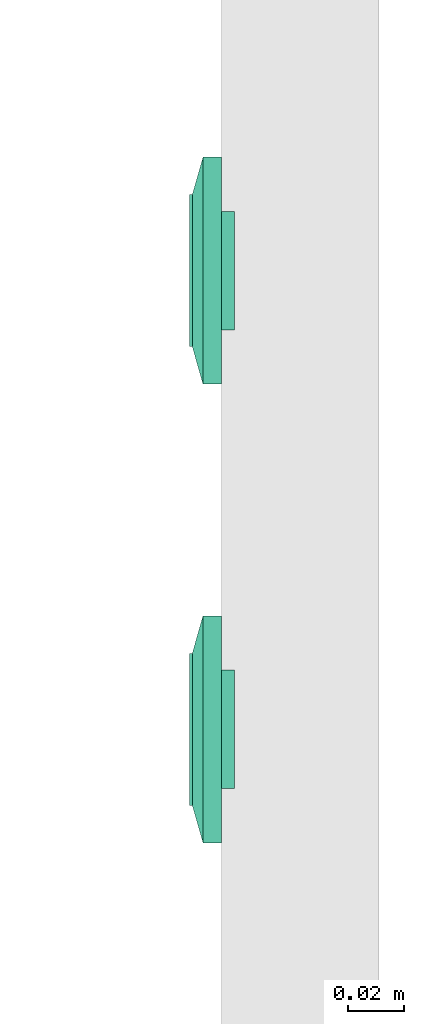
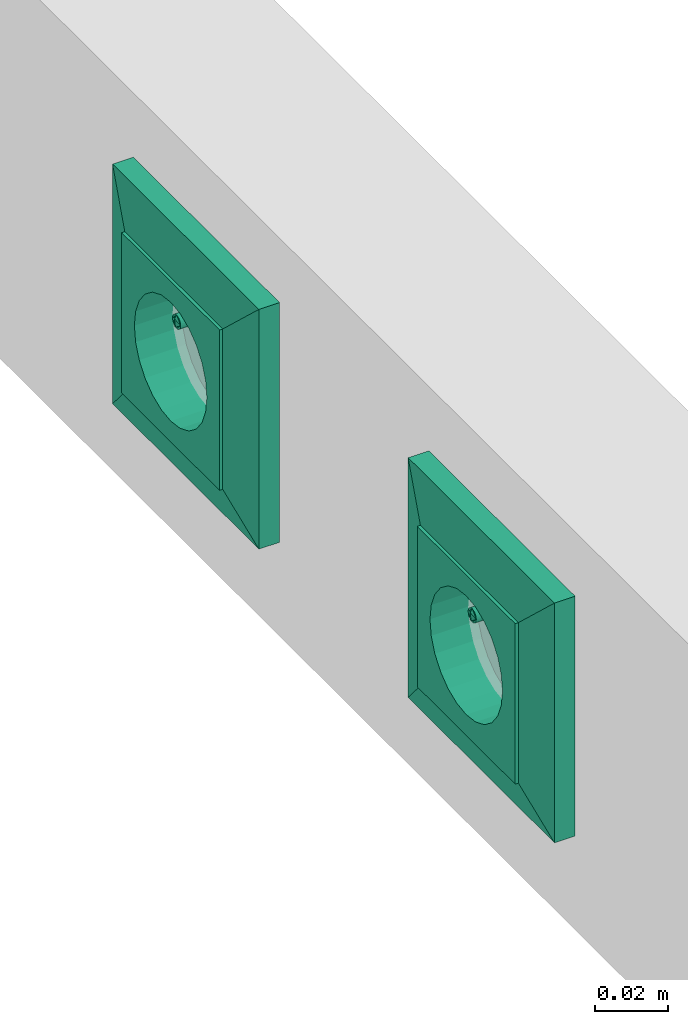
# One storey, part 70 of 166: 2 flow terminals.
"""IFC2X3 building model written with IfcOpenShell, lengths in metres."""

from ifc_helpers import new_model, entity, si_unit, converted_unit, derived_unit, direction, frame, origin, place, context, subcontext, project, spatial, face_set, surface_model, source, transform, mapped, type_object, type_shapes, element, save


model = new_model("IFC2X3")

# Units and contexts
model_context = context("Model", 3, precision=1e-05, world=origin(), true_north=direction((6.12303176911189e-17, 1.0)))
body_context = subcontext(model_context, "Body", "Model", "MODEL_VIEW")
ifc_project = project(units=[si_unit("LENGTHUNIT", "METRE"), si_unit("AREAUNIT", "SQUARE_METRE"), si_unit("VOLUMEUNIT", "CUBIC_METRE"), converted_unit("PLANEANGLEUNIT", "DEGREE", entity("IfcRatioMeasure", 0.0174532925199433), si_unit("PLANEANGLEUNIT", "RADIAN"), dimensions=[0, 0, 0, 0, 0, 0, 0]), si_unit("MASSUNIT", "GRAM", prefix="KILO"), derived_unit("MASSDENSITYUNIT", [(si_unit("MASSUNIT", "GRAM", prefix="KILO"), 1), (si_unit("LENGTHUNIT", "METRE"), -3)]), si_unit("TIMEUNIT", "SECOND"), si_unit("FREQUENCYUNIT", "HERTZ"), si_unit("THERMODYNAMICTEMPERATUREUNIT", "DEGREE_CELSIUS"), derived_unit("THERMALTRANSMITTANCEUNIT", [(si_unit("MASSUNIT", "GRAM", prefix="KILO"), 1), (si_unit("THERMODYNAMICTEMPERATUREUNIT", "KELVIN"), -1), (si_unit("TIMEUNIT", "SECOND"), -3)]), derived_unit("VOLUMETRICFLOWRATEUNIT", [(si_unit("LENGTHUNIT", "METRE"), 3), (si_unit("TIMEUNIT", "SECOND"), -1)]), si_unit("ELECTRICCURRENTUNIT", "AMPERE"), si_unit("ELECTRICVOLTAGEUNIT", "VOLT"), si_unit("POWERUNIT", "WATT"), si_unit("FORCEUNIT", "NEWTON"), si_unit("ILLUMINANCEUNIT", "LUX"), si_unit("LUMINOUSFLUXUNIT", "LUMEN"), si_unit("LUMINOUSINTENSITYUNIT", "CANDELA"), derived_unit("USERDEFINED", [(si_unit("MASSUNIT", "GRAM", prefix="KILO"), -1), (si_unit("LENGTHUNIT", "METRE"), -2), (si_unit("TIMEUNIT", "SECOND"), 3), (si_unit("LUMINOUSFLUXUNIT", "LUMEN"), 1)]), derived_unit("LINEARVELOCITYUNIT", [(si_unit("LENGTHUNIT", "METRE"), 1), (si_unit("TIMEUNIT", "SECOND"), -1)]), si_unit("PRESSUREUNIT", "PASCAL"), derived_unit("USERDEFINED", [(si_unit("LENGTHUNIT", "METRE"), -2), (si_unit("MASSUNIT", "GRAM", prefix="KILO"), 1), (si_unit("TIMEUNIT", "SECOND"), -2)])], contexts=[model_context])

# Site, building, storey
site_placement = place(None, origin())
site = spatial("IfcSite", under=ifc_project, at=site_placement, Name="Default", CompositionType="ELEMENT")
building_placement = place(site_placement, origin())
building = spatial("IfcBuilding", under=site, at=building_placement, CompositionType="ELEMENT")
storey_placement = place(building_placement, frame((0.0, 0.0, 4.27)))
storey = spatial("IfcBuildingStorey", under=building, at=storey_placement, Name="01", CompositionType="ELEMENT", Elevation=4.27)

# Flow terminals
light_fixture_type = type_object("IfcLightFixtureType", Name="IP20 ONDULEE", PredefinedType="NOTDEFINED")
shared_shape = source(origin(), body_context, "Body", "SurfaceModel", [
    surface_model("IfcFaceBasedSurfaceModel", [(-0.00225000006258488, 0.0127499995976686, 0.00949633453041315), (0.0, 0.0104999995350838, 0.00949633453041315), (0.0, 0.0115376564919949, 0.0101656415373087), (0.0, 0.0139623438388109, 0.0101656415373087), (0.0, 0.0144589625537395, 0.00984531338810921), (0.0, 0.0121178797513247, 0.0102778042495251), (0.0, 0.0133821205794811, 0.0102778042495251), (0.0, 0.0127499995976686, 0.010399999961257), (0.0, 0.0149999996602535, 0.00949633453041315), (0.00225000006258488, 0.0127499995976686, 0.00949633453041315), (0.0, 0.0110410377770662, 0.00984531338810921), (0.0, 0.0127499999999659, 0.00949633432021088), (0.00225000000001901, 0.0127499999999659, 0.00949633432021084), (0.00217333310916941, 0.0121676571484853, 0.00949633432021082), (0.00194855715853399, 0.0116249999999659, 0.00949633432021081), (0.00159099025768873, 0.0111590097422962, 0.00949633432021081), (0.001125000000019, 0.010801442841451, 0.00949633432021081), (0.00058234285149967, 0.0105766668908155, 0.00949633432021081), (0.0, 0.0104999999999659, 0.00949633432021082), (-0.000582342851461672, 0.0105766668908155, 0.00949633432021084), (-0.001124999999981, 0.010801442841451, 0.00949633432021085), (-0.00159099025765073, 0.0111590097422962, 0.00949633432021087), (-0.00194855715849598, 0.011624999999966, 0.00949633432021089), (-0.0021733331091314, 0.0121676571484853, 0.00949633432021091), (-0.00224999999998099, 0.012749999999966, 0.00949633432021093), (-0.00217333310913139, 0.0133323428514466, 0.00949633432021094), (-0.00194855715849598, 0.013874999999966, 0.00949633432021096), (-0.00159099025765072, 0.0143409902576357, 0.00949633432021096), (-0.00112499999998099, 0.0146985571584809, 0.00949633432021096), (-0.00058234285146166, 0.0149233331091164, 0.00949633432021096), (0.0, 0.0149999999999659, 0.00949633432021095), (0.000582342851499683, 0.0149233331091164, 0.00949633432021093), (0.00112500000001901, 0.0146985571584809, 0.00949633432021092), (0.00159099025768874, 0.0143409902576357, 0.00949633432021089), (0.001948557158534, 0.0138749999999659, 0.00949633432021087), (0.00217333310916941, 0.0133323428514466, 0.00949633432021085), (0.00225000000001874, 0.0127499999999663, -0.00360000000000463), (0.00217333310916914, 0.0121676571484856, -0.00360000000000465), (0.00194855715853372, 0.0116249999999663, -0.00360000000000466), (0.00159099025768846, 0.0111590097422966, -0.00360000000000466), (0.00112500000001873, 0.0108014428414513, -0.00360000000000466), (0.000582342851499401, 0.0105766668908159, -0.00360000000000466), (0.0, 0.0104999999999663, -0.00360000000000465), (-0.000582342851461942, 0.0105766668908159, -0.00360000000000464), (-0.00112499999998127, 0.0108014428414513, -0.00360000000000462), (-0.001590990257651, 0.0111590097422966, -0.0036000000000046), (-0.00194855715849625, 0.0116249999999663, -0.00360000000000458), (-0.00217333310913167, 0.0121676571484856, -0.00360000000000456), (-0.00224999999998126, 0.0127499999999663, -0.00360000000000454), (-0.00217333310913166, 0.013332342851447, -0.00360000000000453), (-0.00194855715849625, 0.0138749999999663, -0.00360000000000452), (-0.00159099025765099, 0.014340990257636, -0.00360000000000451), (-0.00112499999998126, 0.0146985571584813, -0.00360000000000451), (-0.000582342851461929, 0.0149233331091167, -0.00360000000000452), (0.0, 0.0149999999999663, -0.00360000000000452), (0.000582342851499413, 0.0149233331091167, -0.00360000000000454), (0.00112500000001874, 0.0146985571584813, -0.00360000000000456), (0.00159099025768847, 0.014340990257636, -0.00360000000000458), (0.00194855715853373, 0.0138749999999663, -0.0036000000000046), (0.00217333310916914, 0.013332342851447, -0.00360000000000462), (0.0270000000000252, 0.026999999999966, 0.0113999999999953), (-0.0269999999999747, 0.026999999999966, 0.0113999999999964), (-0.0269999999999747, -0.0270000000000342, 0.0113999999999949), (0.0270000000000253, -0.0270000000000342, 0.0113999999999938), (-0.0199999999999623, 0.0, 0.0113999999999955), (-0.0193185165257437, -0.00517638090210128, 0.0113999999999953), (-0.0173205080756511, -0.0100000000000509, 0.0113999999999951), (-0.0141421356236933, -0.0141421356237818, 0.011399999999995), (-0.00999999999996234, -0.0173205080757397, 0.0113999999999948), (-0.00517638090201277, -0.0193185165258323, 0.0113999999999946), (0.0, -0.0200000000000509, 0.0113999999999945), (0.00517638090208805, -0.0193185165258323, 0.0113999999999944), (0.0100000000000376, -0.0173205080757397, 0.0113999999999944), (0.0141421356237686, -0.0141421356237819, 0.0113999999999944), (0.0173205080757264, -0.010000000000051, 0.0113999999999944), (0.0193185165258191, -0.00517638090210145, 0.0113999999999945), (0.0200000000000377, 0.0, 0.0113999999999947), (0.0193185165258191, 0.00517638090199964, 0.0113999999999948), (0.0173205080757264, 0.0099999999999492, 0.011399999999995), (0.0141421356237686, 0.0141421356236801, 0.0113999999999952), (0.0100000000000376, 0.0173205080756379, 0.0113999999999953), (0.00517638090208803, 0.0193185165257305, 0.0113999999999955), (0.0, 0.0199999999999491, 0.0113999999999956), (-0.00517638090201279, 0.0193185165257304, 0.0113999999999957), (-0.00999999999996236, 0.0173205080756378, 0.0113999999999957), (-0.0141421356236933, 0.01414213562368, 0.0113999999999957), (-0.0173205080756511, 0.00999999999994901, 0.0113999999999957), (-0.0193185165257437, 0.00517638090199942, 0.0113999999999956), (0.0270000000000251, 0.0269999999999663, 0.00199999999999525), (0.0270000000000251, -0.0270000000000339, 0.00199999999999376), (-0.0269999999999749, -0.0270000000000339, 0.00199999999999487), (-0.0269999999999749, 0.0269999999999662, 0.00199999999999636), (0.0210000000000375, 0.0, 0.00199999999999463), (0.0202844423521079, -0.00543519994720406, 0.00199999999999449), (0.0181865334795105, -0.0105000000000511, 0.0019999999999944), (0.0148492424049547, -0.0148492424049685, 0.00199999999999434), (0.0105000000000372, -0.0181865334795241, 0.00199999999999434), (0.0054351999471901, -0.0202844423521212, 0.00199999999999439), (0.0, -0.0210000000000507, 0.00199999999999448), (-0.00543519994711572, -0.020284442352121, 0.00199999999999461), (-0.0104999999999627, -0.0181865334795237, 0.00199999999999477), (-0.0148492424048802, -0.014849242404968, 0.00199999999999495), (-0.0181865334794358, -0.0105000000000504, 0.00199999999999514), (-0.020284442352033, -0.00543519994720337, 0.00199999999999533), (-0.0209999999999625, 0.0, 0.00199999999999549), (-0.0202844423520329, 0.0054351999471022, 0.00199999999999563), (-0.0181865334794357, 0.0104999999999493, 0.00199999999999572), (-0.01484924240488, 0.0148492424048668, 0.00199999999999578), (-0.0104999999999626, 0.0181865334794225, 0.00199999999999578), (-0.00543519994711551, 0.0202844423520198, 0.00199999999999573), (0.0, 0.0209999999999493, 0.00199999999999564), (0.00543519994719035, 0.0202844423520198, 0.00199999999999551), (0.0105000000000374, 0.0181865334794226, 0.00199999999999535), (0.0148492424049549, 0.0148492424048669, 0.00199999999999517), (0.0181865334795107, 0.0104999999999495, 0.00199999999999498), (0.0202844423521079, 0.00543519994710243, 0.00199999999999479), (0.0200000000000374, 0.0, -0.00360000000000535), (0.0193185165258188, -0.00517638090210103, -0.00360000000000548), (0.0173205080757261, -0.0100000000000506, -0.00360000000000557), (0.0141421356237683, -0.0141421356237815, -0.00360000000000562), (0.0100000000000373, -0.0173205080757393, -0.00360000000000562), (0.00517638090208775, -0.0193185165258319, -0.00360000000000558), (0.0, -0.0200000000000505, -0.00360000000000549), (-0.00517638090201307, -0.0193185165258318, -0.00360000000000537), (-0.00999999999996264, -0.0173205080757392, -0.00360000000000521), (-0.0141421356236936, -0.0141421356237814, -0.00360000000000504), (-0.0173205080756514, -0.0100000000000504, -0.00360000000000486), (-0.019318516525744, -0.00517638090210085, -0.00360000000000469), (-0.0199999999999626, 0.0, -0.00360000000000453), (-0.0193185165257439, 0.00517638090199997, -0.0036000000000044), (-0.0173205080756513, 0.00999999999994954, -0.00360000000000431), (-0.0141421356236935, 0.0141421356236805, -0.00360000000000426), (-0.00999999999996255, 0.0173205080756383, -0.00360000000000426), (-0.00517638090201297, 0.0193185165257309, -0.0036000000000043), (0.0, 0.0199999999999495, -0.00360000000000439), (0.00517638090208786, 0.0193185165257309, -0.00360000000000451), (0.0100000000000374, 0.0173205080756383, -0.00360000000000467), (0.0141421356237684, 0.0141421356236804, -0.00360000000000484), (0.0173205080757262, 0.0099999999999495, -0.00360000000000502), (0.0193185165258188, 0.00517638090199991, -0.00360000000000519), (-0.0123499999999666, 0.0, -0.00360000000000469), (-0.0122562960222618, -0.000711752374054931, -0.00360000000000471), (-0.0119815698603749, -0.00137500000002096, -0.00360000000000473), (-0.0115445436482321, -0.00194454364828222, -0.00360000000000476), (-0.0109749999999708, -0.00238156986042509, -0.00360000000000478), (-0.0103117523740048, -0.00265629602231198, -0.0036000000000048), (-0.00959999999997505, -0.00275000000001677, -0.00360000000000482), (-0.0088882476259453, -0.00265629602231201, -0.00360000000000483), (-0.00822499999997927, -0.00238156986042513, -0.00360000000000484), (-0.00765545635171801, -0.00194454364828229, -0.00360000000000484), (-0.00721843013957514, -0.00137500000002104, -0.00360000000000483), (-0.00694370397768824, -0.000711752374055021, -0.00360000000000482), (-0.00684999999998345, 0.0, -0.0036000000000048), (-0.00694370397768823, 0.000711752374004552, -0.00360000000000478), (-0.00721843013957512, 0.00137499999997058, -0.00360000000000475), (-0.00765545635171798, 0.00194454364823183, -0.00360000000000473), (-0.00822499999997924, 0.00238156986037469, -0.0036000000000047), (-0.00888824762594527, 0.00265629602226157, -0.00360000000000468), (-0.00959999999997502, 0.00274999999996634, -0.00360000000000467), (-0.0103117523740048, 0.00265629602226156, -0.00360000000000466), (-0.0109749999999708, 0.00238156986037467, -0.00360000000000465), (-0.011544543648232, 0.00194454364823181, -0.00360000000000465), (-0.0119815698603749, 0.00137499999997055, -0.00360000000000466), (-0.0122562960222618, 0.000711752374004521, -0.00360000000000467), (0.00685000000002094, 0.0, -0.00360000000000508), (0.0069437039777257, -0.00071175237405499, -0.0036000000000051), (0.00721843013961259, -0.00137500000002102, -0.00360000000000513), (0.00765545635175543, -0.00194454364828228, -0.00360000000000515), (0.00822500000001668, -0.00238156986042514, -0.00360000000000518), (0.00888824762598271, -0.00265629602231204, -0.0036000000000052), (0.00960000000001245, -0.00275000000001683, -0.00360000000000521), (0.0103117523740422, -0.00265629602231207, -0.00360000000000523), (0.0109750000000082, -0.00238156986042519, -0.00360000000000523), (0.0115445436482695, -0.00194454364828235, -0.00360000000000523), (0.0119815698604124, -0.0013750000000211, -0.00360000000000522), (0.0122562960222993, -0.00071175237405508, -0.00360000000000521), (0.012350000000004, 0.0, -0.00360000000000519), (0.0122562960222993, 0.000711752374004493, -0.00360000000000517), (0.0119815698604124, 0.00137499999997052, -0.00360000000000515), (0.0115445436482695, 0.00194454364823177, -0.00360000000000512), (0.0109750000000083, 0.00238156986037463, -0.0036000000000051), (0.0103117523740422, 0.00265629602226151, -0.00360000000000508), (0.00960000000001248, 0.00274999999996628, -0.00360000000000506), (0.00888824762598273, 0.0026562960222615, -0.00360000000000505), (0.0082250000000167, 0.00238156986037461, -0.00360000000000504), (0.00765545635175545, 0.00194454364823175, -0.00360000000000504), (0.0072184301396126, 0.00137499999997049, -0.00360000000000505), (0.00694370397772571, 0.000711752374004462, -0.00360000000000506), (0.0210000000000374, 0.0, -0.00460000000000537), (0.0202844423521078, -0.00543519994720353, -0.00460000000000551), (0.0181865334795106, -0.0105000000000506, -0.0046000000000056), (0.0148492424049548, -0.0148492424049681, -0.00460000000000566), (0.0105000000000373, -0.0181865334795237, -0.00460000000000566), (0.00543519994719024, -0.0202844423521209, -0.00460000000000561), (0.0, -0.0210000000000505, -0.00460000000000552), (-0.00543519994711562, -0.0202844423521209, -0.00460000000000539), (-0.0104999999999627, -0.0181865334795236, -0.00460000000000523), (-0.0148492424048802, -0.0148492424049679, -0.00460000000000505), (-0.0181865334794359, -0.0105000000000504, -0.00460000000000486), (-0.0202844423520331, -0.00543519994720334, -0.00460000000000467), (-0.0209999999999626, 0.0, -0.00460000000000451), (-0.020284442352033, 0.00543519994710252, -0.00460000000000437), (-0.0181865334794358, 0.0104999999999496, -0.00460000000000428), (-0.0148492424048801, 0.0148492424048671, -0.00460000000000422), (-0.0104999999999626, 0.0181865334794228, -0.00460000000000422), (-0.00543519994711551, 0.02028444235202, -0.00460000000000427), (0.0, 0.0209999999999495, -0.00460000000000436), (0.00543519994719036, 0.02028444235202, -0.00460000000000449), (0.0105000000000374, 0.0181865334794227, -0.00460000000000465), (0.0148492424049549, 0.014849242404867, -0.00460000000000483), (0.0181865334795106, 0.0104999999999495, -0.00460000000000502), (0.0202844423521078, 0.00543519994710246, -0.00460000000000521), (-0.00684999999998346, 0.0, -0.0046000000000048), (-0.00694370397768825, 0.000711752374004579, -0.00460000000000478), (-0.00721843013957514, 0.00137499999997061, -0.00460000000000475), (-0.007655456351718, 0.00194454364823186, -0.00460000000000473), (-0.00822499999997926, 0.00238156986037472, -0.0046000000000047), (-0.00888824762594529, 0.0026562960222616, -0.00460000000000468), (-0.00959999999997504, 0.00274999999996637, -0.00460000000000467), (-0.0103117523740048, 0.00265629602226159, -0.00460000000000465), (-0.0109749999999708, 0.0023815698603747, -0.00460000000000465), (-0.0115445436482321, 0.00194454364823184, -0.00460000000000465), (-0.0119815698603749, 0.00137499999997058, -0.00460000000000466), (-0.0122562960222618, 0.000711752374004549, -0.00460000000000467), (-0.0123499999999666, 0.0, -0.00460000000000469), (-0.0122562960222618, -0.000711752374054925, -0.00460000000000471), (-0.0119815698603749, -0.00137500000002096, -0.00460000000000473), (-0.0115445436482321, -0.00194454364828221, -0.00460000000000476), (-0.0109749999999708, -0.00238156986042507, -0.00460000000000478), (-0.0103117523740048, -0.00265629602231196, -0.0046000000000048), (-0.00959999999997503, -0.00275000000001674, -0.00460000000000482), (-0.00888824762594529, -0.00265629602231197, -0.00460000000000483), (-0.00822499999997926, -0.00238156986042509, -0.00460000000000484), (-0.007655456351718, -0.00194454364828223, -0.00460000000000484), (-0.00721843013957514, -0.00137500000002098, -0.00460000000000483), (-0.00694370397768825, -0.000711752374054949, -0.00460000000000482), (0.012350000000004, 0.0, -0.00460000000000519), (0.0122562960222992, 0.000711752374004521, -0.00460000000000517), (0.0119815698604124, 0.00137499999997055, -0.00460000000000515), (0.0115445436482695, 0.0019445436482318, -0.00460000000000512), (0.0109750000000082, 0.00238156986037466, -0.0046000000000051), (0.0103117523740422, 0.00265629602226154, -0.00460000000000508), (0.00960000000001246, 0.00274999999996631, -0.00460000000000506), (0.00888824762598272, 0.00265629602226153, -0.00460000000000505), (0.00822500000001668, 0.00238156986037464, -0.00460000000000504), (0.00765545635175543, 0.00194454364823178, -0.00460000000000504), (0.00721843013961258, 0.00137499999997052, -0.00460000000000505), (0.00694370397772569, 0.00071175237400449, -0.00460000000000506), (0.00685000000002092, 0.0, -0.00460000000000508), (0.00694370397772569, -0.000711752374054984, -0.0046000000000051), (0.00721843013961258, -0.00137500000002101, -0.00460000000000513), (0.00765545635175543, -0.00194454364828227, -0.00460000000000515), (0.00822500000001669, -0.00238156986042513, -0.00460000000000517), (0.00888824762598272, -0.00265629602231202, -0.0046000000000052), (0.00960000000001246, -0.0027500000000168, -0.00460000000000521), (0.0103117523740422, -0.00265629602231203, -0.00460000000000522), (0.0109750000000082, -0.00238156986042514, -0.00460000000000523), (0.0115445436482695, -0.00194454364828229, -0.00460000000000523), (0.0119815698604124, -0.00137500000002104, -0.00460000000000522), (0.0122562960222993, -0.000711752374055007, -0.00460000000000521), (0.040350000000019, 0.0403499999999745, 0.00659999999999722), (0.040350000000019, -0.0403500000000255, 0.00659999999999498), (-0.0403499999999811, -0.0403500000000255, 0.00659999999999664), (-0.0403499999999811, 0.0403499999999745, 0.00659999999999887), (0.027000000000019, 0.0269999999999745, 0.00659999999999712), (-0.0269999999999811, 0.0269999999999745, 0.00659999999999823), (-0.026999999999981, -0.0270000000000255, 0.00659999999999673), (0.027000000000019, -0.0270000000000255, 0.00659999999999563), (0.027000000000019, 0.0269999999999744, 0.0103999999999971), (-0.026999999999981, 0.0269999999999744, 0.0103999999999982), (-0.026999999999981, -0.0270000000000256, 0.0103999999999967), (0.027000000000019, -0.0270000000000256, 0.0103999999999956), (0.040350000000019, 0.0403499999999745, 0.00659999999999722), (0.040350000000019, -0.0403500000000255, 0.00659999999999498), (-0.0403499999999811, -0.0403500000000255, 0.00659999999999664), (-0.0403499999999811, 0.0403499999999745, 0.00659999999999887), (-0.0269999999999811, 0.0269999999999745, 0.00659999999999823), (-0.0269999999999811, -0.0270000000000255, 0.00659999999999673), (0.0270000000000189, -0.0270000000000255, 0.00659999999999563), (0.0270000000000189, 0.0269999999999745, 0.00659999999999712), (0.0403500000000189, 0.0403499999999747, 0.0), (0.0403500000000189, -0.0403500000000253, 0.0), (-0.0403499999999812, -0.0403500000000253, 0.0), (-0.0403499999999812, 0.0403499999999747, 0.0), (0.0270000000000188, 0.0269999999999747, 0.0), (-0.0269999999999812, 0.0269999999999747, 0.0), (-0.0269999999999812, -0.0270000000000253, 0.0), (0.0270000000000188, -0.0270000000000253, 0.0)], [face_set([[[0, 1, 2]], [[3, 4, 2, 5]], [[6, 3, 5, 7]], [[2, 4, 0]], [[4, 8, 0]], [[3, 9, 8]], [[1, 9, 10]], [[2, 3, 6, 7]], [[3, 10, 9]], [[2, 10, 3]], [[11, 1, 0, 8]], [[11, 8, 9, 1]]]), face_set([[[12, 13, 14, 15, 16, 17, 18, 19, 20, 21, 22, 23, 24, 25, 26, 27, 28, 29, 30, 31, 32, 33, 34, 35]], [[36, 37, 38, 39, 40, 41, 42, 43, 44, 45, 46, 47, 48, 49, 50, 51, 52, 53, 54, 55, 56, 57, 58, 59]], [[48, 47, 23, 24]], [[47, 46, 22, 23]], [[45, 44, 20, 21]], [[46, 45, 21, 22]], [[44, 43, 19, 20]], [[18, 19, 43, 42]], [[42, 41, 17, 18]], [[41, 40, 16, 17]], [[39, 38, 14, 15]], [[40, 39, 15, 16]], [[38, 37, 13, 14]], [[12, 13, 37, 36]], [[36, 59, 35, 12]], [[59, 58, 34, 35]], [[57, 56, 32, 33]], [[58, 57, 33, 34]], [[56, 55, 31, 32]], [[30, 31, 55, 54]], [[54, 53, 29, 30]], [[53, 52, 28, 29]], [[51, 50, 26, 27]], [[52, 51, 27, 28]], [[50, 49, 25, 26]], [[24, 25, 49, 48]]]), face_set([[[60, 61, 62, 63], [64, 65, 66, 67, 68, 69, 70, 71, 72, 73, 74, 75, 76, 77, 78, 79, 80, 81, 82, 83, 84, 85, 86, 87]], [[88, 89, 90, 91], [92, 93, 94, 95, 96, 97, 98, 99, 100, 101, 102, 103, 104, 105, 106, 107, 108, 109, 110, 111, 112, 113, 114, 115]], [[61, 60, 88, 91]], [[62, 61, 91, 90]], [[63, 62, 90, 89]], [[60, 63, 89, 88]], [[116, 117, 118, 119, 120, 121, 122, 123, 124, 125, 126, 127, 128, 129, 130, 131, 132, 133, 134, 135, 136, 137, 138, 139], [140, 141, 142, 143, 144, 145, 146, 147, 148, 149, 150, 151, 152, 153, 154, 155, 156, 157, 158, 159, 160, 161, 162, 163], [164, 165, 166, 167, 168, 169, 170, 171, 172, 173, 174, 175, 176, 177, 178, 179, 180, 181, 182, 183, 184, 185, 186, 187]], [[64, 128, 127, 65]], [[65, 127, 126, 66]], [[67, 125, 124, 68]], [[66, 126, 125, 67]], [[68, 124, 123, 69]], [[122, 70, 69, 123]], [[70, 122, 121, 71]], [[71, 121, 120, 72]], [[73, 119, 118, 74]], [[72, 120, 119, 73]], [[74, 118, 117, 75]], [[116, 76, 75, 117]], [[76, 116, 139, 77]], [[77, 139, 138, 78]], [[79, 137, 136, 80]], [[78, 138, 137, 79]], [[80, 136, 135, 81]], [[134, 82, 81, 135]], [[82, 134, 133, 83]], [[83, 133, 132, 84]], [[84, 132, 131, 85]], [[85, 131, 130, 86]], [[130, 129, 87, 86]], [[64, 87, 129, 128]], [[188, 189, 190, 191, 192, 193, 194, 195, 196, 197, 198, 199, 200, 201, 202, 203, 204, 205, 206, 207, 208, 209, 210, 211], [212, 213, 214, 215, 216, 217, 218, 219, 220, 221, 222, 223, 224, 225, 226, 227, 228, 229, 230, 231, 232, 233, 234, 235], [236, 237, 238, 239, 240, 241, 242, 243, 244, 245, 246, 247, 248, 249, 250, 251, 252, 253, 254, 255, 256, 257, 258, 259]], [[200, 199, 103, 104]], [[199, 198, 102, 103]], [[197, 196, 100, 101]], [[198, 197, 101, 102]], [[196, 195, 99, 100]], [[98, 99, 195, 194]], [[194, 193, 97, 98]], [[193, 192, 96, 97]], [[191, 190, 94, 95]], [[192, 191, 95, 96]], [[190, 189, 93, 94]], [[92, 93, 189, 188]], [[188, 211, 115, 92]], [[211, 210, 114, 115]], [[209, 208, 112, 113]], [[210, 209, 113, 114]], [[208, 207, 111, 112]], [[110, 111, 207, 206]], [[206, 205, 109, 110]], [[205, 204, 108, 109]], [[203, 202, 106, 107]], [[204, 203, 107, 108]], [[202, 201, 105, 106]], [[104, 105, 201, 200]], [[141, 225, 226, 142]], [[140, 224, 225, 141]], [[144, 228, 229, 145]], [[143, 227, 228, 144]], [[142, 226, 227, 143]], [[230, 146, 145, 229]], [[149, 233, 232, 148]], [[148, 232, 231, 147]], [[152, 212, 235, 151]], [[151, 235, 234, 150]], [[150, 234, 233, 149]], [[146, 230, 231, 147]], [[154, 214, 213, 153]], [[153, 213, 212, 152]], [[157, 217, 216, 156]], [[156, 216, 215, 155]], [[155, 215, 214, 154]], [[218, 158, 157, 217]], [[160, 220, 221, 161]], [[159, 219, 220, 160]], [[163, 223, 224, 140]], [[162, 222, 223, 163]], [[161, 221, 222, 162]], [[158, 218, 219, 159]], [[166, 250, 249, 165]], [[165, 249, 248, 164]], [[169, 253, 252, 168]], [[168, 252, 251, 167]], [[167, 251, 250, 166]], [[254, 170, 169, 253]], [[172, 256, 257, 173]], [[171, 255, 256, 172]], [[175, 259, 236, 176]], [[174, 258, 259, 175]], [[173, 257, 258, 174]], [[170, 254, 255, 171]], [[177, 237, 238, 178]], [[176, 236, 237, 177]], [[180, 240, 241, 181]], [[179, 239, 240, 180]], [[178, 238, 239, 179]], [[242, 182, 181, 241]], [[185, 245, 244, 184]], [[184, 244, 243, 183]], [[164, 248, 247, 187]], [[187, 247, 246, 186]], [[186, 246, 245, 185]], [[182, 242, 243, 183]]]), face_set([[[260, 261, 262, 263], [264, 265, 266, 267]], [[260, 268, 269, 263]], [[263, 269, 270, 262]], [[262, 270, 271, 261]], [[261, 271, 268, 260]], [[264, 265, 269, 268]], [[265, 266, 270, 269]], [[266, 267, 271, 270]], [[268, 271, 267, 264]]]), face_set([[[272, 273, 274, 275], [276, 277, 278, 279]], [[280, 281, 282, 283], [284, 285, 286, 287]], [[275, 272, 280, 283]], [[274, 275, 283, 282]], [[273, 274, 282, 281]], [[272, 273, 281, 280]], [[284, 285, 276, 279]], [[285, 286, 277, 276]], [[286, 287, 278, 277]], [[279, 278, 287, 284]]])]),
])
type_shapes(light_fixture_type, [shared_shape])
for number, where, z_axis, x_axis in (
    (1, (37.3667436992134, -186.284627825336, 4.70800000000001), (-1.0, 0.0, 0.0), (0.0, -1.0, 0.0)),
    (2, (37.3667436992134, -186.447627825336, 4.70800000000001), (-1.0, 0.0, 0.0), (0.0, -1.0, 0.0)),
):
    element("IfcFlowTerminal", number, at=place(building_placement, frame(where, z_axis=z_axis, x_axis=x_axis)), inside=storey, type_object=light_fixture_type, Name="INT Prise de courant:IP20 ONDULEE", ObjectType="INT Prise de courant:IP20 ONDULEE", context=body_context, shape_type="MappedRepresentation", body=[
        mapped(shared_shape, transform((0.0, 0.0, 0.0), scale=1.0)),
    ])

save(model, "model.ifc")
